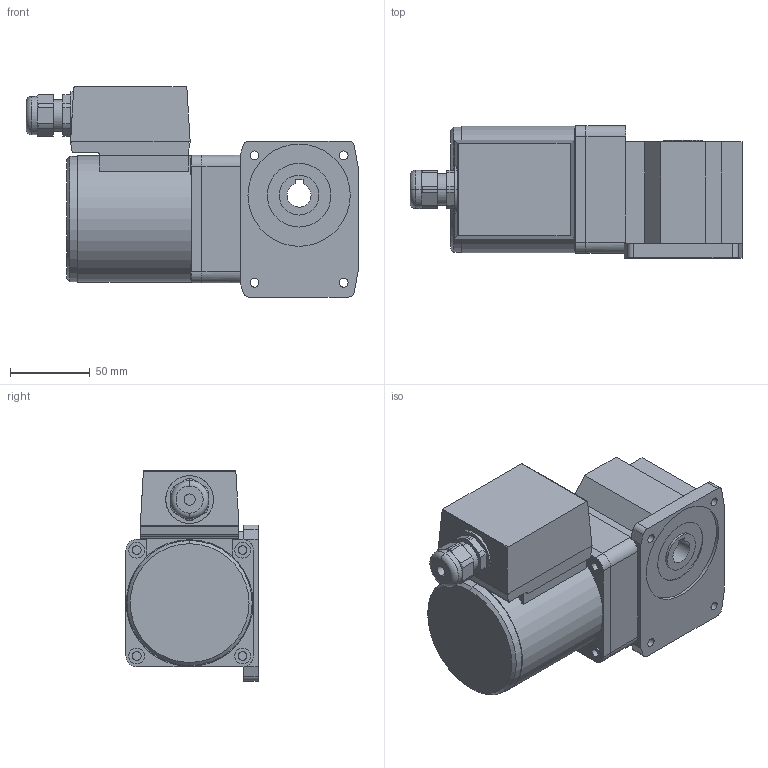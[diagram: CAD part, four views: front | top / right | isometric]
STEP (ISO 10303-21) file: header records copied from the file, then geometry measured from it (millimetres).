
FILE_DESCRIPTION(('starvars output'),'2;1');
FILE_NAME('4IK25GN-CW2TE _ 4GN50RH.stp','10:33:02 2015/05/11',( 'Thomas Industrial Network Germany GmbH'),( 'Thomas Industrial Network Germany GmbH'),'unknown preprocess','ACIS' ,'unknown authorization');
FILE_SCHEMA(('AUTOMOTIVE_DESIGN_CC2 {UNKNOWN IMPLEMENTATION LEVEL}'));
Length unit declared in the file: millimetre
Products named in the file (1): PRODUCT_ID_6
Bounding box: 208.51 x 83 x 132 mm (x, y, z)
Volume: 1186230.3 mm3; surface area: 98113.1 mm2
Topology: 2 solids, 2 shells, 204 faces, 514 edges, 338 vertices
Faces by surface type: plane 102, cylinder 90, torus 10, cone 2
Entity records: 7326 total; most frequent: CARTESIAN_POINT 1073, ORIENTED_EDGE 1028, DIRECTION 830, EDGE_CURVE 514, VERTEX_POINT 338, VECTOR 304, LINE 304, AXIS2_PLACEMENT_3D 263
